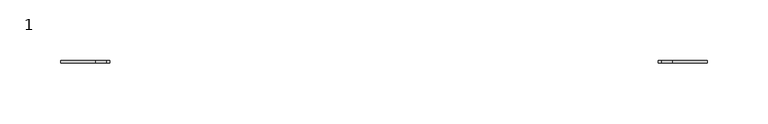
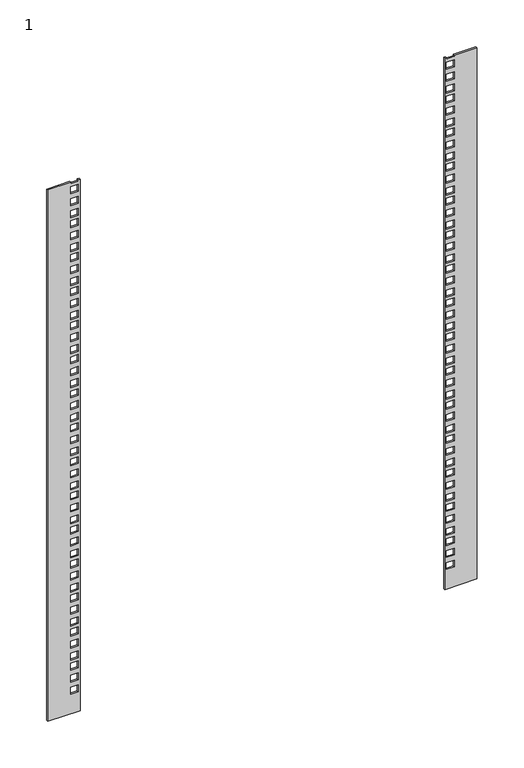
"""IFC4 building model written with IfcOpenShell, lengths in millimetres: proxy geometry, 1 : 15U 450мм стеклянная дверь."""

from ifc_helpers import new_model, si_unit, frame, origin, place, context, project, spatial, polyline, outline, extrude, source, transform, mapped, element, save


def proxy_1_70eedf67(model_context):
    return source(origin(), model_context, "Body", "SweptSolid", [
        extrude(outline(polyline([(20.4675, 225.3), (20.4675, 265.3), (714.4675, 265.3), (714.4675, 237.05), (712.8175, 237.05), (712.8175, 227.55), (714.4675, 227.55), (714.4675, 225.3), (20.4675, 225.3)]), holes=[polyline([(55.0175, 227.55), (55.0175, 237.05), (46.0675, 237.05), (46.0675, 227.55), (55.0175, 227.55)]), polyline([(70.6675, 227.55), (70.6675, 237.05), (61.7175, 237.05), (61.7175, 227.55), (70.6675, 227.55)]), polyline([(86.3175, 227.55), (86.3175, 237.05), (77.3675, 237.05), (77.3675, 227.55), (86.3175, 227.55)]), polyline([(99.4675, 237.05), (90.5175, 237.05), (90.5175, 227.55), (99.4675, 227.55), (99.4675, 237.05)]), polyline([(115.1175, 237.05), (106.1675, 237.05), (106.1675, 227.55), (115.1175, 227.55), (115.1175, 237.05)]), polyline([(130.7675, 237.05), (121.8175, 237.05), (121.8175, 227.55), (130.7675, 227.55), (130.7675, 237.05)]), polyline([(143.9175, 237.05), (134.9675, 237.05), (134.9675, 227.55), (143.9175, 227.55), (143.9175, 237.05)]), polyline([(159.5675, 237.05), (150.6175, 237.05), (150.6175, 227.55), (159.5675, 227.55), (159.5675, 237.05)]), polyline([(175.2175, 237.05), (166.2675, 237.05), (166.2675, 227.55), (175.2175, 227.55), (175.2175, 237.05)]), polyline([(188.3675, 237.05), (179.4175, 237.05), (179.4175, 227.55), (188.3675, 227.55), (188.3675, 237.05)]), polyline([(204.0175, 237.05), (195.0675, 237.05), (195.0675, 227.55), (204.0175, 227.55), (204.0175, 237.05)]), polyline([(219.6675, 237.05), (210.7175, 237.05), (210.7175, 227.55), (219.6675, 227.55), (219.6675, 237.05)]), polyline([(232.8175, 237.05), (223.8675, 237.05), (223.8675, 227.55), (232.8175, 227.55), (232.8175, 237.05)]), polyline([(248.4675, 237.05), (239.5175, 237.05), (239.5175, 227.55), (248.4675, 227.55), (248.4675, 237.05)]), polyline([(264.1175, 237.05), (255.1675, 237.05), (255.1675, 227.55), (264.1175, 227.55), (264.1175, 237.05)]), polyline([(277.2675, 237.05), (268.3175, 237.05), (268.3175, 227.55), (277.2675, 227.55), (277.2675, 237.05)]), polyline([(292.9175, 237.05), (283.9675, 237.05), (283.9675, 227.55), (292.9175, 227.55), (292.9175, 237.05)]), polyline([(308.5675, 237.05), (299.6175, 237.05), (299.6175, 227.55), (308.5675, 227.55), (308.5675, 237.05)]), polyline([(321.7175, 237.05), (312.7675, 237.05), (312.7675, 227.55), (321.7175, 227.55), (321.7175, 237.05)]), polyline([(337.3675, 237.05), (328.4175, 237.05), (328.4175, 227.55), (337.3675, 227.55), (337.3675, 237.05)]), polyline([(353.0175, 237.05), (344.0675, 237.05), (344.0675, 227.55), (353.0175, 227.55), (353.0175, 237.05)]), polyline([(366.1675, 237.05), (357.2175, 237.05), (357.2175, 227.55), (366.1675, 227.55), (366.1675, 237.05)]), polyline([(381.8175, 237.05), (372.8675, 237.05), (372.8675, 227.55), (381.8175, 227.55), (381.8175, 237.05)]), polyline([(397.4675, 237.05), (388.5175, 237.05), (388.5175, 227.55), (397.4675, 227.55), (397.4675, 237.05)]), polyline([(410.6175, 237.05), (401.6675, 237.05), (401.6675, 227.55), (410.6175, 227.55), (410.6175, 237.05)]), polyline([(426.2675, 237.05), (417.3175, 237.05), (417.3175, 227.55), (426.2675, 227.55), (426.2675, 237.05)]), polyline([(441.9175, 237.05), (432.9675, 237.05), (432.9675, 227.55), (441.9175, 227.55), (441.9175, 237.05)]), polyline([(455.0675, 237.05), (446.1175, 237.05), (446.1175, 227.55), (455.0675, 227.55), (455.0675, 237.05)]), polyline([(470.7175, 237.05), (461.7675, 237.05), (461.7675, 227.55), (470.7175, 227.55), (470.7175, 237.05)]), polyline([(486.3675, 237.05), (477.4175, 237.05), (477.4175, 227.55), (486.3675, 227.55), (486.3675, 237.05)]), polyline([(499.5175, 237.05), (490.5675, 237.05), (490.5675, 227.55), (499.5175, 227.55), (499.5175, 237.05)]), polyline([(515.1675, 237.05), (506.2175, 237.05), (506.2175, 227.55), (515.1675, 227.55), (515.1675, 237.05)]), polyline([(530.8175, 237.05), (521.8675, 237.05), (521.8675, 227.55), (530.8175, 227.55), (530.8175, 237.05)]), polyline([(543.9675, 237.05), (535.0175, 237.05), (535.0175, 227.55), (543.9675, 227.55), (543.9675, 237.05)]), polyline([(559.6175, 237.05), (550.6675, 237.05), (550.6675, 227.55), (559.6175, 227.55), (559.6175, 237.05)]), polyline([(575.2675, 237.05), (566.3175, 237.05), (566.3175, 227.55), (575.2675, 227.55), (575.2675, 237.05)]), polyline([(588.4175, 237.05), (579.4675, 237.05), (579.4675, 227.55), (588.4175, 227.55), (588.4175, 237.05)]), polyline([(604.0675, 237.05), (595.1175, 237.05), (595.1175, 227.55), (604.0675, 227.55), (604.0675, 237.05)]), polyline([(619.7175, 237.05), (610.7675, 237.05), (610.7675, 227.55), (619.7175, 227.55), (619.7175, 237.05)]), polyline([(632.8675, 237.05), (623.9175, 237.05), (623.9175, 227.55), (632.8675, 227.55), (632.8675, 237.05)]), polyline([(648.5175, 237.05), (639.5675, 237.05), (639.5675, 227.55), (648.5175, 227.55), (648.5175, 237.05)]), polyline([(664.1675, 237.05), (655.2175, 237.05), (655.2175, 227.55), (664.1675, 227.55), (664.1675, 237.05)]), polyline([(677.3175, 237.05), (668.3675, 237.05), (668.3675, 227.55), (677.3175, 227.55), (677.3175, 237.05)]), polyline([(692.9675, 237.05), (684.0175, 237.05), (684.0175, 227.55), (692.9675, 227.55), (692.9675, 237.05)]), polyline([(708.6175, 237.05), (699.6675, 237.05), (699.6675, 227.55), (708.6175, 227.55), (708.6175, 237.05)])]), frame((0.0, -179.6777479, 0.0), z_axis=(0.0, 1.0, 0.0), x_axis=(0.0, 0.0, 1.0)), (0.0, 0.0, 1.0), 2.0),
        extrude(outline(polyline([(20.4675, -265.7), (20.4675, -225.7), (714.4675, -225.7), (714.4675, -227.95), (712.8175, -227.95), (712.8175, -237.45), (714.4675, -237.45), (714.4675, -265.7), (20.4675, -265.7)]), holes=[polyline([(55.0175, -237.45), (55.0175, -227.95), (46.0675, -227.95), (46.0675, -237.45), (55.0175, -237.45)]), polyline([(70.6675, -237.45), (70.6675, -227.95), (61.7175, -227.95), (61.7175, -237.45), (70.6675, -237.45)]), polyline([(86.3175, -237.45), (86.3175, -227.95), (77.3675, -227.95), (77.3675, -237.45), (86.3175, -237.45)]), polyline([(90.5175, -237.45), (99.4675, -237.45), (99.4675, -227.95), (90.5175, -227.95), (90.5175, -237.45)]), polyline([(106.1675, -237.45), (115.1175, -237.45), (115.1175, -227.95), (106.1675, -227.95), (106.1675, -237.45)]), polyline([(121.8175, -237.45), (130.7675, -237.45), (130.7675, -227.95), (121.8175, -227.95), (121.8175, -237.45)]), polyline([(134.9675, -237.45), (143.9175, -237.45), (143.9175, -227.95), (134.9675, -227.95), (134.9675, -237.45)]), polyline([(150.6175, -237.45), (159.5675, -237.45), (159.5675, -227.95), (150.6175, -227.95), (150.6175, -237.45)]), polyline([(166.2675, -237.45), (175.2175, -237.45), (175.2175, -227.95), (166.2675, -227.95), (166.2675, -237.45)]), polyline([(179.4175, -237.45), (188.3675, -237.45), (188.3675, -227.95), (179.4175, -227.95), (179.4175, -237.45)]), polyline([(195.0675, -237.45), (204.0175, -237.45), (204.0175, -227.95), (195.0675, -227.95), (195.0675, -237.45)]), polyline([(210.7175, -237.45), (219.6675, -237.45), (219.6675, -227.95), (210.7175, -227.95), (210.7175, -237.45)]), polyline([(223.8675, -237.45), (232.8175, -237.45), (232.8175, -227.95), (223.8675, -227.95), (223.8675, -237.45)]), polyline([(239.5175, -237.45), (248.4675, -237.45), (248.4675, -227.95), (239.5175, -227.95), (239.5175, -237.45)]), polyline([(255.1675, -237.45), (264.1175, -237.45), (264.1175, -227.95), (255.1675, -227.95), (255.1675, -237.45)]), polyline([(268.3175, -237.45), (277.2675, -237.45), (277.2675, -227.95), (268.3175, -227.95), (268.3175, -237.45)]), polyline([(283.9675, -237.45), (292.9175, -237.45), (292.9175, -227.95), (283.9675, -227.95), (283.9675, -237.45)]), polyline([(299.6175, -237.45), (308.5675, -237.45), (308.5675, -227.95), (299.6175, -227.95), (299.6175, -237.45)]), polyline([(312.7675, -237.45), (321.7175, -237.45), (321.7175, -227.95), (312.7675, -227.95), (312.7675, -237.45)]), polyline([(328.4175, -237.45), (337.3675, -237.45), (337.3675, -227.95), (328.4175, -227.95), (328.4175, -237.45)]), polyline([(344.0675, -237.45), (353.0175, -237.45), (353.0175, -227.95), (344.0675, -227.95), (344.0675, -237.45)]), polyline([(357.2175, -237.45), (366.1675, -237.45), (366.1675, -227.95), (357.2175, -227.95), (357.2175, -237.45)]), polyline([(372.8675, -237.45), (381.8175, -237.45), (381.8175, -227.95), (372.8675, -227.95), (372.8675, -237.45)]), polyline([(388.5175, -237.45), (397.4675, -237.45), (397.4675, -227.95), (388.5175, -227.95), (388.5175, -237.45)]), polyline([(401.6675, -237.45), (410.6175, -237.45), (410.6175, -227.95), (401.6675, -227.95), (401.6675, -237.45)]), polyline([(417.3175, -237.45), (426.2675, -237.45), (426.2675, -227.95), (417.3175, -227.95), (417.3175, -237.45)]), polyline([(432.9675, -237.45), (441.9175, -237.45), (441.9175, -227.95), (432.9675, -227.95), (432.9675, -237.45)]), polyline([(446.1175, -237.45), (455.0675, -237.45), (455.0675, -227.95), (446.1175, -227.95), (446.1175, -237.45)]), polyline([(461.7675, -237.45), (470.7175, -237.45), (470.7175, -227.95), (461.7675, -227.95), (461.7675, -237.45)]), polyline([(477.4175, -237.45), (486.3675, -237.45), (486.3675, -227.95), (477.4175, -227.95), (477.4175, -237.45)]), polyline([(490.5675, -237.45), (499.5175, -237.45), (499.5175, -227.95), (490.5675, -227.95), (490.5675, -237.45)]), polyline([(506.2175, -237.45), (515.1675, -237.45), (515.1675, -227.95), (506.2175, -227.95), (506.2175, -237.45)]), polyline([(521.8675, -237.45), (530.8175, -237.45), (530.8175, -227.95), (521.8675, -227.95), (521.8675, -237.45)]), polyline([(535.0175, -237.45), (543.9675, -237.45), (543.9675, -227.95), (535.0175, -227.95), (535.0175, -237.45)]), polyline([(550.6675, -237.45), (559.6175, -237.45), (559.6175, -227.95), (550.6675, -227.95), (550.6675, -237.45)]), polyline([(566.3175, -237.45), (575.2675, -237.45), (575.2675, -227.95), (566.3175, -227.95), (566.3175, -237.45)]), polyline([(579.4675, -237.45), (588.4175, -237.45), (588.4175, -227.95), (579.4675, -227.95), (579.4675, -237.45)]), polyline([(595.1175, -237.45), (604.0675, -237.45), (604.0675, -227.95), (595.1175, -227.95), (595.1175, -237.45)]), polyline([(610.7675, -237.45), (619.7175, -237.45), (619.7175, -227.95), (610.7675, -227.95), (610.7675, -237.45)]), polyline([(623.9175, -237.45), (632.8675, -237.45), (632.8675, -227.95), (623.9175, -227.95), (623.9175, -237.45)]), polyline([(639.5675, -237.45), (648.5175, -237.45), (648.5175, -227.95), (639.5675, -227.95), (639.5675, -237.45)]), polyline([(655.2175, -237.45), (664.1675, -237.45), (664.1675, -227.95), (655.2175, -227.95), (655.2175, -237.45)]), polyline([(668.3675, -237.45), (677.3175, -237.45), (677.3175, -227.95), (668.3675, -227.95), (668.3675, -237.45)]), polyline([(684.0175, -237.45), (692.9675, -237.45), (692.9675, -227.95), (684.0175, -227.95), (684.0175, -237.45)]), polyline([(699.6675, -237.45), (708.6175, -237.45), (708.6175, -227.95), (699.6675, -227.95), (699.6675, -237.45)])]), frame((0.0, -179.6777479, 0.0), z_axis=(0.0, 1.0, 0.0), x_axis=(0.0, 0.0, 1.0)), (0.0, 0.0, 1.0), 2.0),
    ])


if __name__ == "__main__":
    model = new_model("IFC4")
    model_context = context("Model", 3, world=origin())
    ifc_project = project(units=[si_unit("LENGTHUNIT", "METRE", prefix="MILLI")], contexts=[model_context])
    site = spatial("IfcSite", under=ifc_project)
    building = spatial("IfcBuilding", under=site)
    placement = place(None, origin())
    proxy_1_shape = proxy_1_70eedf67(model_context)
    element("IfcBuildingElementProxy", 1, Name="1 : 15U 450мм стеклянная дверь", ObjectType="1 : 15U 450мм стеклянная дверь", at=placement, inside=building, context=model_context, shape_type="MappedRepresentation", body=[
        mapped(proxy_1_shape, transform((0.0, 0.0, 0.0), x_axis=(1.0, 0.0, 0.0), y_axis=(0.0, 1.0, 0.0), z_axis=(0.0, 0.0, 1.0))),
    ])
    save(model, "model.ifc")
